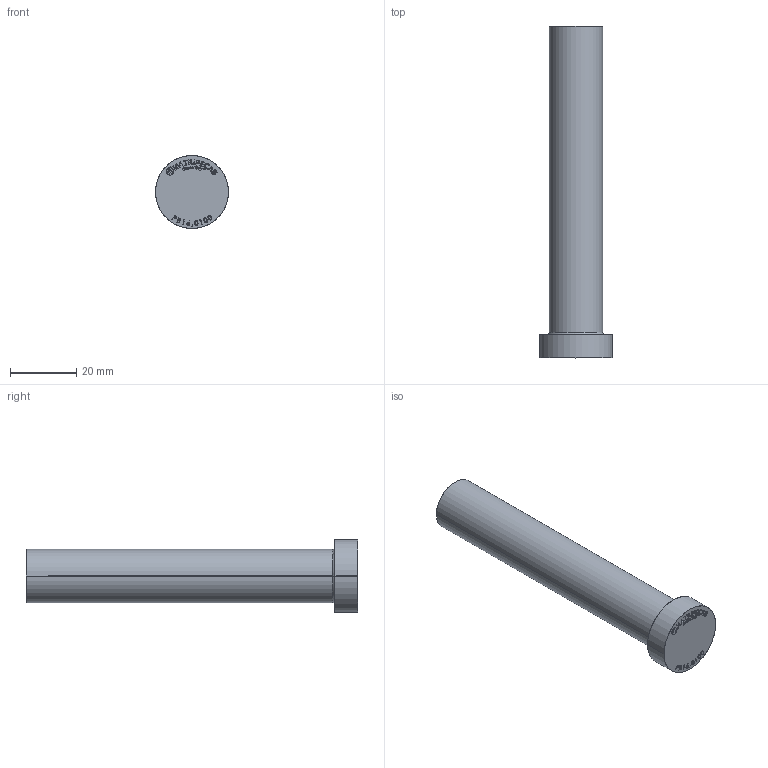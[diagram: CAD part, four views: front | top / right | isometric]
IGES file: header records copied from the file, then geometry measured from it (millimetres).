
Start section: SolidWorks IGES file using analytic representation for surfaces
Global section: file name: C:\Users\User\Downloads\Matripeça 31-08 tar\PB - PINO EXTRATOR TIPO _B_ (CATÁLOGO)\PB16,0\PB16,0100.IGS; native system: SolidWorks 2024; preprocessor: SolidWorks 2024; author: User; date: 260901.154817; units: millimetre
Bounding box: 22 x 100 x 22 mm (x, y, z)
Surface area: 5918.7 mm2 (no closed solid volume)
Topology: 0 solids, 0 shells, 391 faces, 4082 edges, 4082 vertices
Faces by surface type: bspline 377, revolution 14
